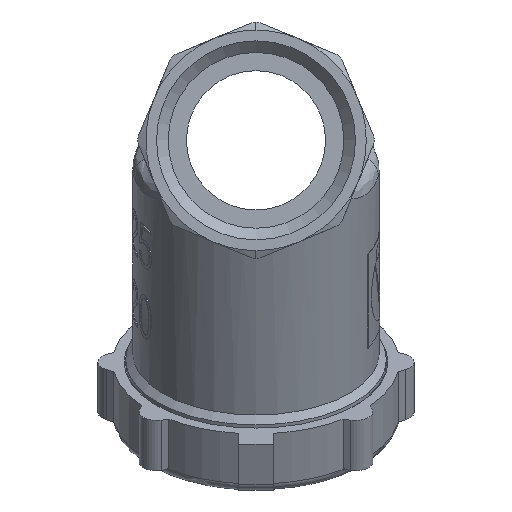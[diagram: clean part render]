
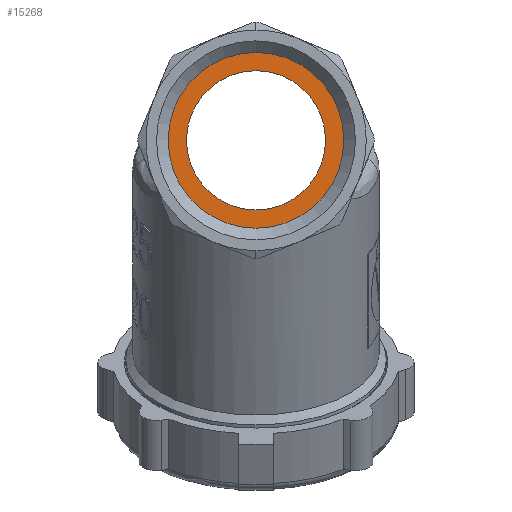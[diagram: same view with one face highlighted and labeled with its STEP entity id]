
A CAD part, left-side view. The second image highlights one B-rep face of the part: STEP entity #15268.
In plain terms, the highlighted planar face has unit normal (-1, 0, 0).
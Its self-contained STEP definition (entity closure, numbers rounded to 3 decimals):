
#15203=CARTESIAN_POINT('',(0.003,0.,12.));
#15204=VERTEX_POINT('',#15203);
#15228=CARTESIAN_POINT('',(0.003,12.,-0.));
#15229=VERTEX_POINT('',#15228);
#15230=CARTESIAN_POINT('',(0.003,0.,-0.));
#15231=DIRECTION('',(-1.,-0.,0.));
#15232=DIRECTION('',(0.,1.,0.));
#15233=AXIS2_PLACEMENT_3D('',#15230,#15231,#15232);
#15234=CIRCLE('',#15233,12.);
#15235=EDGE_CURVE('',#15204,#15229,#15234,.T.);
#15237=CARTESIAN_POINT('',(0.003,0.,-0.));
#15238=DIRECTION('',(-1.,-0.,0.));
#15239=DIRECTION('',(0.,1.,0.));
#15240=AXIS2_PLACEMENT_3D('',#15237,#15238,#15239);
#15241=CIRCLE('',#15240,12.);
#15242=EDGE_CURVE('',#15229,#15204,#15241,.T.);
#15248=CARTESIAN_POINT('',(0.003,0.,-0.));
#15249=DIRECTION('',(1.,0.,-0.));
#15250=DIRECTION('',(-0.,0.,-1.));
#15251=AXIS2_PLACEMENT_3D('',#15248,#15249,#15250);
#15252=PLANE('',#15251);
#15253=CARTESIAN_POINT('',(0.003,0.,-15.15));
#15254=VERTEX_POINT('',#15253);
#15255=CARTESIAN_POINT('',(0.003,0.,-0.));
#15256=DIRECTION('',(1.,0.,-0.));
#15257=DIRECTION('',(-0.,0.,-1.));
#15258=AXIS2_PLACEMENT_3D('',#15255,#15256,#15257);
#15259=CIRCLE('',#15258,15.15);
#15260=EDGE_CURVE('',#15254,#15254,#15259,.T.);
#15261=ORIENTED_EDGE('',*,*,#15260,.F.);
#15262=EDGE_LOOP('',(#15261));
#15263=FACE_BOUND('',#15262,.T.);
#15264=ORIENTED_EDGE('',*,*,#15235,.F.);
#15265=ORIENTED_EDGE('',*,*,#15242,.F.);
#15266=EDGE_LOOP('',(#15264,#15265));
#15267=FACE_BOUND('',#15266,.T.);
#15268=ADVANCED_FACE('',(#15263,#15267),#15252,.F.);
